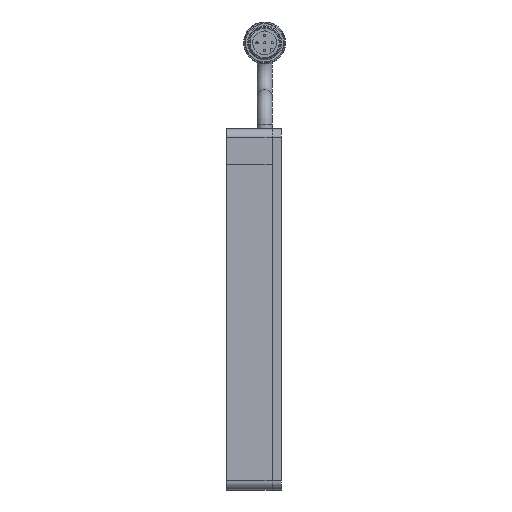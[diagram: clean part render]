
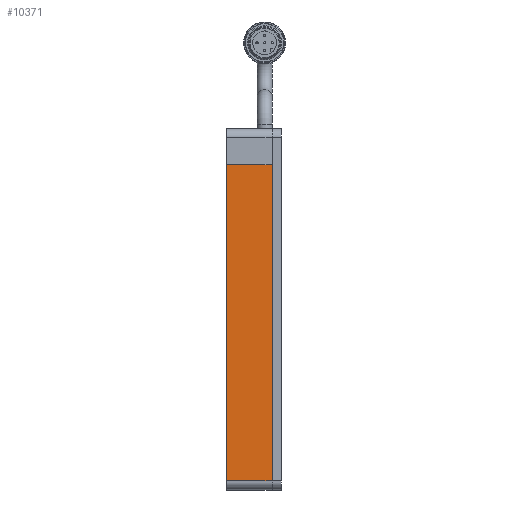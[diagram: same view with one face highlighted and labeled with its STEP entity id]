
A CAD part, left-side view. The second image highlights one B-rep face of the part: STEP entity #10371.
In plain terms, the highlighted planar face has unit normal (-1, 0, 0) as drawn and (0, 0, -1) by its records, which use the part's own axes.
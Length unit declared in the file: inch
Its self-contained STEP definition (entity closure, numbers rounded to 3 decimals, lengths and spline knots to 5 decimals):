
#112 = DIRECTION ( 'NONE',  ( 0., 0., 1. ) ) ;
#239 = CARTESIAN_POINT ( 'NONE',  ( 2.375, 0.3125, -0.25 ) ) ;
#617 = VECTOR ( 'NONE', #6694, 39.37008 ) ;
#1034 = CARTESIAN_POINT ( 'NONE',  ( -2.5, 0.3125, -0.25 ) ) ;
#1303 = LINE ( 'NONE', #239, #13848 ) ;
#1521 = ORIENTED_EDGE ( 'NONE', *, *, #8149, .T. ) ;
#2082 = EDGE_CURVE ( 'NONE', #9306, #8725, #1303, .T. ) ;
#2108 = FACE_OUTER_BOUND ( 'NONE', #9094, .T. ) ;
#2388 = EDGE_CURVE ( 'NONE', #7761, #9251, #4262, .T. ) ;
#3012 = EDGE_CURVE ( 'NONE', #9306, #9251, #4699, .T. ) ;
#3319 = PLANE ( 'NONE',  #13467 ) ;
#3406 = CARTESIAN_POINT ( 'NONE',  ( -2., -0.3125, -0.25 ) ) ;
#3530 = ORIENTED_EDGE ( 'NONE', *, *, #3012, .F. ) ;
#3798 = CARTESIAN_POINT ( 'NONE',  ( -2., -0.3125, -0.25 ) ) ;
#4262 = LINE ( 'NONE', #3406, #5915 ) ;
#4699 = LINE ( 'NONE', #9932, #617 ) ;
#4831 = DIRECTION ( 'NONE',  ( -1., 0., 0. ) ) ;
#4993 = CARTESIAN_POINT ( 'NONE',  ( 2.375, -0.3125, -0.25 ) ) ;
#5645 = DIRECTION ( 'NONE',  ( 0., -1., 0. ) ) ;
#5915 = VECTOR ( 'NONE', #12820, 39.37008 ) ;
#6566 = ORIENTED_EDGE ( 'NONE', *, *, #2388, .T. ) ;
#6694 = DIRECTION ( 'NONE',  ( -1., 0., 0. ) ) ;
#6958 = CARTESIAN_POINT ( 'NONE',  ( -2.5, -0.3125, -0.25 ) ) ;
#7701 = ORIENTED_EDGE ( 'NONE', *, *, #2082, .T. ) ;
#7761 = VERTEX_POINT ( 'NONE', #3798 ) ;
#8149 = EDGE_CURVE ( 'NONE', #8725, #7761, #8216, .T. ) ;
#8216 = LINE ( 'NONE', #6958, #13730 ) ;
#8725 = VERTEX_POINT ( 'NONE', #4993 ) ;
#8806 = DIRECTION ( 'NONE',  ( 1., 0., 0. ) ) ;
#8835 = CARTESIAN_POINT ( 'NONE',  ( -2., 0.3125, -0.25 ) ) ;
#9094 = EDGE_LOOP ( 'NONE', ( #3530, #7701, #1521, #6566 ) ) ;
#9116 = CARTESIAN_POINT ( 'NONE',  ( 2.375, 0.3125, -0.25 ) ) ;
#9251 = VERTEX_POINT ( 'NONE', #8835 ) ;
#9306 = VERTEX_POINT ( 'NONE', #9116 ) ;
#9932 = CARTESIAN_POINT ( 'NONE',  ( -2.5, 0.3125, -0.25 ) ) ;
#10371 = ADVANCED_FACE ( 'NONE', ( #2108 ), #3319, .F. ) ;
#12820 = DIRECTION ( 'NONE',  ( 0., 1., 0. ) ) ;
#13467 = AXIS2_PLACEMENT_3D ( 'NONE', #1034, #112, #8806 ) ;
#13730 = VECTOR ( 'NONE', #4831, 39.37008 ) ;
#13848 = VECTOR ( 'NONE', #5645, 39.37008 ) ;
